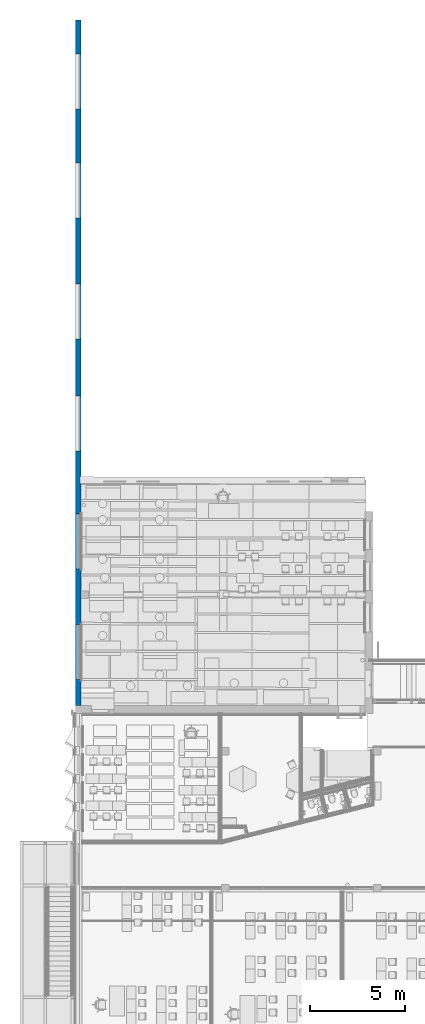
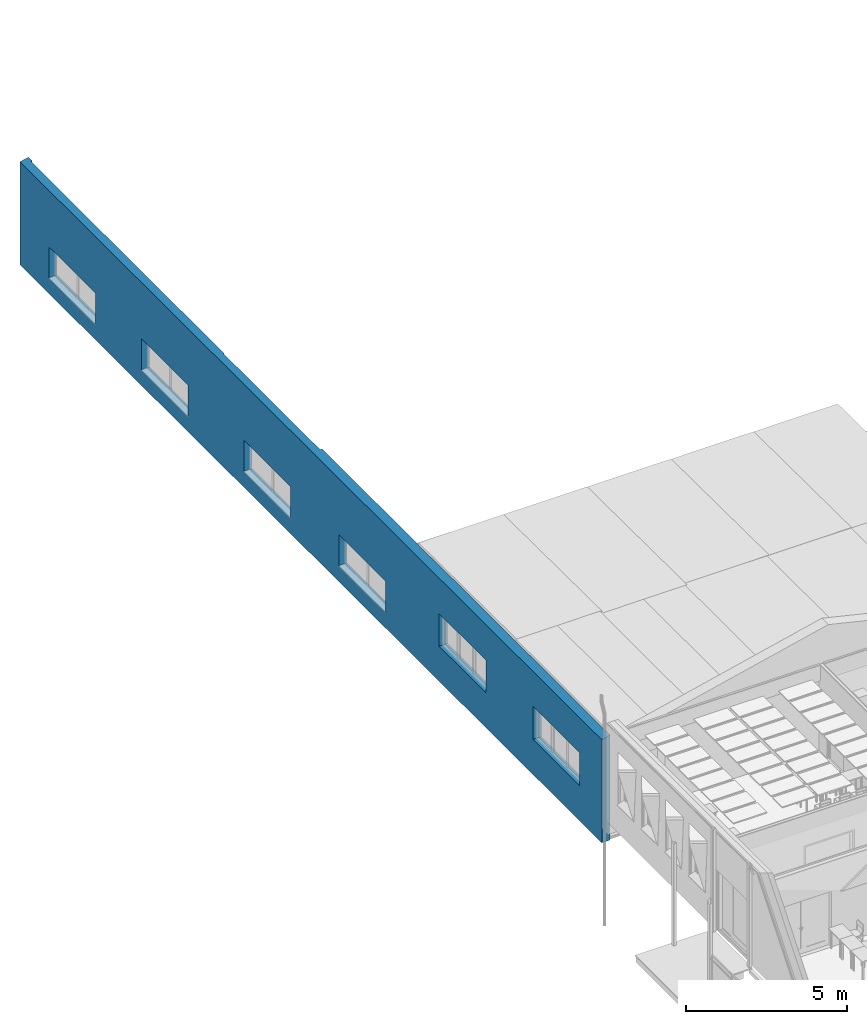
# One storey, part 43 of 153: 1 wall, 8 openings.
"""IFC2X3 building model written with IfcOpenShell, lengths in millimetres."""

from ifc_helpers import new_model, entity, si_unit, converted_unit, derived_unit, money_unit, direction, frame, origin_with_axes, place, context, subcontext, project, spatial, faceted_brep, material, type_object, element, save


model = new_model("IFC2X3")

# Units and contexts
model_context = context("Model", 3, precision=0.01, world=origin_with_axes(), true_north=direction((0.0, 1.0)))
body_context = subcontext(model_context, "Body", "Model", "MODEL_VIEW")
ifc_project = project(units=[si_unit("LENGTHUNIT", "METRE", prefix="MILLI"), si_unit("AREAUNIT", "SQUARE_METRE"), si_unit("VOLUMEUNIT", "CUBIC_METRE"), converted_unit("PLANEANGLEUNIT", "DEGREE", entity("IfcPlaneAngleMeasure", 0.0174532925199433), si_unit("PLANEANGLEUNIT", "RADIAN"), dimensions=[0, 0, 0, 0, 0, 0, 0]), money_unit("EUR"), converted_unit("TIMEUNIT", "Year", entity("IfcTimeMeasure", 31557600.0), si_unit("TIMEUNIT", "SECOND"), dimensions=[0, 0, 1, 0, 0, 0, 0]), si_unit("MASSUNIT", "GRAM", prefix="KILO"), si_unit("THERMODYNAMICTEMPERATUREUNIT", "DEGREE_CELSIUS"), si_unit("LUMINOUSINTENSITYUNIT", "LUMEN"), si_unit("ENERGYUNIT", "JOULE", prefix="MEGA"), derived_unit("THERMALCONDUCTANCEUNIT", [(si_unit("POWERUNIT", "WATT"), 1), (si_unit("LENGTHUNIT", "METRE"), -1), (si_unit("THERMODYNAMICTEMPERATUREUNIT", "KELVIN"), -1)]), derived_unit("SPECIFICHEATCAPACITYUNIT", [(si_unit("ENERGYUNIT", "JOULE"), 1), (si_unit("MASSUNIT", "GRAM", prefix="KILO"), -1), (si_unit("THERMODYNAMICTEMPERATUREUNIT", "KELVIN"), -1)]), derived_unit("MASSDENSITYUNIT", [(si_unit("MASSUNIT", "GRAM", prefix="KILO"), 1), (si_unit("VOLUMEUNIT", "CUBIC_METRE"), -1)])], contexts=[model_context])

# Site, building, storey
site_placement = place(None, frame((0.0, 0.0, 8650.0), z_axis=(0.0, 0.0, 1.0), x_axis=(1.0, 0.0, 0.0)))
site = spatial("IfcSite", under=ifc_project, at=site_placement, Name="43301:001:0844", CompositionType="ELEMENT")
building_placement = place(site_placement, origin_with_axes())
building = spatial("IfcBuilding", under=site, at=building_placement, Name="Kuressaare Ametikooli tuulikute mehaanikute õppekorpus", CompositionType="ELEMENT")
storey_placement = place(building_placement, frame((0.0, 0.0, 4100.0), z_axis=(0.0, 0.0, 1.0), x_axis=(1.0, 0.0, 0.0)))
storey = spatial("IfcBuildingStorey", under=building, at=storey_placement, Name="2.korrus", CompositionType="ELEMENT", Elevation=4100.0)

# Wall, openings
ifc_material = material(Name="GENEERILINE - KONSTRUKTRIOON")
wall_type = type_object("IfcWallType", Name="GENEERILINE - KONSTRUKTRIOON 300", PredefinedType="NOTDEFINED")
wall_placement = place(storey_placement, frame((87958.75644683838, 26183.06892395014, -1100.0), z_axis=(0.0, 0.0, 1.0), x_axis=(0.0, 1.0, 0.0)))
wall = element("IfcWall", 1, at=wall_placement, inside=storey, type_object=wall_type, material=ifc_material, Name="VS-XX", context=body_context, shape_type="Brep", body=[
    faceted_brep([(36135.27519226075, 0.0, 3910.00000002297), (36135.27519226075, -299.9999999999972, 3980.0995718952), (36135.27519226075, -299.9999999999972, 705.0000000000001), (36135.27519226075, -299.7521975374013, 705.0000000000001), (36135.27519226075, -299.7521975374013, 0.0), (36135.27519226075, 0.0, 0.0), (35918.66517290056, -299.9999999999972, 3980.0995718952), (0.0, 0.0, 3910.00000002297), (0.0, -299.9999999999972, 3980.0995718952), (9769.322232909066, -299.9999999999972, 3980.0995718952), (11873.62772160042, -287.4826970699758, 3977.174713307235), (11873.70217983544, -299.9999999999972, 3980.0995718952), (17902.08336193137, -299.9999999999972, 3980.0995718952), (17902.08336193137, -239.9999999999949, 3966.079657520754), (23906.45284457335, -239.9999999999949, 3966.079657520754), (23906.45284457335, -260.0000000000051, 3970.752962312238), (35918.66517290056, -260.0000000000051, 3970.752962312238), (0.0, -299.9999999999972, 0.0), (5578.795652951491, -299.9999999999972, 0.0), (5578.795652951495, -299.9999999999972, 410.0000000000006), (6078.795884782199, -300.0000000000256, 410.0000000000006), (6078.795884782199, -300.0000000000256, 0.0), (36135.21621371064, -299.9999999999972, 0.0), (36135.21621371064, -299.9999999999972, 705.0000000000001), (35918.66517290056, -299.9999999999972, 3659.999865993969), (30020.96183835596, -299.9999999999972, 3659.999865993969), (30020.96182321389, -299.9999999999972, 3654.999785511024), (29911.38185349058, -299.9999999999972, 3654.999785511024), (29911.38185349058, -299.9999999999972, 3659.999865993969), (23883.18431296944, -299.9999999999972, 3659.999865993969), (23883.1843129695, -299.9999999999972, 3654.999790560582), (23796.87360218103, -299.9999999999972, 3654.999790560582), (23796.87358703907, -299.9999999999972, 3659.999865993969), (17903.29176569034, -299.9999999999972, 3659.999865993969), (17903.29176569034, -299.9999999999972, 3655.82329013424), (17793.71187662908, -299.9999999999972, 3655.82329013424), (17793.71133888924, -299.9999999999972, 3833.391031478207), (17768.11920217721, -299.9999999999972, 3878.451691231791), (17736.44654341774, -299.9999999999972, 3919.467142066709), (17725.48393259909, -299.9999999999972, 3931.0), (17902.08336193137, -299.9999999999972, 3931.0), (11873.70217983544, -299.9999999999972, 3930.090151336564), (12067.31661151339, -299.9999999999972, 3930.090151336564), (12056.35403760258, -299.9999999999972, 3918.557293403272), (12024.68148547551, -299.9999999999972, 3877.541842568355), (11999.08943492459, -299.9999999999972, 3832.481182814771), (11999.08889718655, -299.9999999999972, 3654.913441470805), (11873.70217983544, -299.9999999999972, 3654.913441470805), (11873.70217983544, -299.9999999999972, 3634.999865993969), (9769.32223290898, -299.9999999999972, 3634.999865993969), (4301.376350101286, -299.9999999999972, 3899.55932829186), (4293.177474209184, -299.9999999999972, 3905.133663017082), (4346.691540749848, -299.9999999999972, 3905.133663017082), (4346.691540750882, -299.9999999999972, 3803.186184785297), (4326.691011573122, -299.9999999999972, 3803.186184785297), (4305.950979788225, -299.9999999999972, 3890.763465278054), (2837.428015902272, -299.9999999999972, 3905.133663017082), (2890.942082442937, -299.9999999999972, 3905.133663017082), (2890.942082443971, -299.9999999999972, 3803.186184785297), (2870.94155326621, -299.9999999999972, 3803.186184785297), (2850.201521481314, -299.9999999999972, 3890.763465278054), (2845.626891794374, -299.9999999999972, 3899.55932829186), (1381.134924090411, -299.9999999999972, 3905.133663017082), (1381.134924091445, -299.9999999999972, 3803.186184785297), (1361.134394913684, -299.9999999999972, 3803.186184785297), (1340.394363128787, -299.9999999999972, 3890.763465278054), (1335.819733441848, -299.9999999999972, 3899.55932829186), (1327.62085754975, -299.9999999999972, 3905.133663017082), (6856.769745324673, -299.9999999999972, 3890.763465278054), (6852.195115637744, -299.9999999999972, 3899.55932829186), (6843.996239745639, -299.9999999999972, 3905.133663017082), (6951.024372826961, -299.9999999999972, 3905.133663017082), (6942.82556358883, -299.9999999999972, 3899.559403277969), (6938.250913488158, -299.9999999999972, 3890.763660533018), (6917.509919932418, -299.9999999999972, 3803.186184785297), (6877.50977710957, -299.9999999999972, 3803.186184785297), (7834.88819334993, -299.9999999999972, 3899.55932829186), (7826.689317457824, -299.9999999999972, 3905.133663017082), (7933.717450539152, -299.9999999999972, 3905.133663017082), (7925.518641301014, -299.9999999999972, 3899.559403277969), (7920.94399120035, -299.9999999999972, 3890.763660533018), (7900.202997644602, -299.9999999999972, 3803.186184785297), (7860.202854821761, -299.9999999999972, 3803.186184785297), (7839.462823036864, -299.9999999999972, 3890.763465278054), (8807.22529570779, -299.9999999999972, 3905.133663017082), (8914.253428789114, -299.9999999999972, 3905.133663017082), (8906.054619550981, -299.9999999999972, 3899.559403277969), (8901.47996945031, -299.9999999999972, 3890.763660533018), (8880.73897589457, -299.9999999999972, 3803.186184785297), (8840.73883307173, -299.9999999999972, 3803.186184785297), (8819.998801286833, -299.9999999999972, 3890.763465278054), (8815.42417159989, -299.9999999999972, 3899.55932829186), (13911.07650633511, -299.9999999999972, 3930.166833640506), (13911.07650633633, -299.9999999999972, 3828.21935540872), (13891.07602169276, -299.9999999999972, 3828.21935540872), (13870.33603611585, -299.9999999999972, 3915.796635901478), (13865.761416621, -299.9999999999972, 3924.592498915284), (13857.56255899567, -299.9999999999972, 3930.166833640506), (12945.67901612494, -299.9999999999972, 3828.21935540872), (12925.67848693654, -299.9999999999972, 3828.21935540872), (12904.93845515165, -299.9999999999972, 3915.796635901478), (12900.36382546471, -299.9999999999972, 3924.592498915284), (12892.16494957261, -299.9999999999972, 3930.166833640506), (12945.67901612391, -299.9999999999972, 3930.166833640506), (5885.932940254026, -299.9999999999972, 3480.0), (5885.932940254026, -299.9999999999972, 3236.665496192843), (5940.933148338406, -299.9999999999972, 3199.998829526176), (5940.933148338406, -299.9999999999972, 3039.998829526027), (5840.932770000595, -299.9999999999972, 3039.998829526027), (5840.932770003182, -299.9999999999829, 3640.0), (5840.932770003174, -299.9999999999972, 3905.165256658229), (6018.794379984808, -299.9999999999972, 3905.165256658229), (5992.600799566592, -299.9999999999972, 3878.38607984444), (5969.734858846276, -299.9999999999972, 3848.714972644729), (5950.513279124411, -299.9999999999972, 3816.56291625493), (5950.512740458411, -299.9999999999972, 3640.0), (5955.933205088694, -299.9999999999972, 3640.0), (5955.933205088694, -299.9999999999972, 3540.000000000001), (7202.826094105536, -299.9999999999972, 2560.0), (10102.82609410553, -299.9999999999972, 2560.0), (10102.82609410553, -299.9999999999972, 1330.0), (7202.826094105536, -299.9999999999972, 1330.0), (16329.67826843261, -299.9999999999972, 600.0000000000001), (13429.67826843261, -299.9999999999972, 600.0000000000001), (13429.67826843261, -299.9999999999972, 1780.0), (16329.67826843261, -299.9999999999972, 1780.0), (19329.67826843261, -300.0000000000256, 1780.0), (22229.67826843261, -300.0000000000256, 1780.0), (22229.67826843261, -300.0000000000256, 600.0000000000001), (19329.67826843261, -300.0000000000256, 600.0000000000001), (28597.4437882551, -299.9999999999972, 589.9999999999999), (25697.44378825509, -299.9999999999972, 589.9999999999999), (25697.44378825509, -299.9999999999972, 1770.0), (28597.4437882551, -299.9999999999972, 1770.0), (31442.20444023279, -299.9999999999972, 1770.0), (34342.20444023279, -299.9999999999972, 1770.0), (34342.20444023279, -299.9999999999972, 589.9999999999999), (31442.20444023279, -299.9999999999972, 589.9999999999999), (4276.542440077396, -299.9999999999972, 1330.0), (1376.542440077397, -299.9999999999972, 1330.0), (1376.542440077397, -299.9999999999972, 1350.0), (1376.542440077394, -299.9999999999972, 2580.0), (4276.542440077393, -299.9999999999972, 2580.0), (4276.542440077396, -299.9999999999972, 1350.0), (36135.21621371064, -299.7521975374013, 705.0000000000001), (36135.21621371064, -299.7521975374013, 0.0), (5578.7961166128, -299.5185121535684, 0.0), (0.0, 0.0, 0.0), (10102.82609410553, 0.0, 2560.0), (7202.826094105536, 0.0, 2560.0), (7202.826094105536, 0.0, 1330.0), (10102.82609410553, 0.0, 1330.0), (13429.67826843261, 0.0, 600.0000000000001), (16329.67826843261, 0.0, 600.0000000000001), (16329.67826843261, 0.0, 1780.0), (13429.67826843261, 0.0, 1780.0), (22229.67826843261, 0.0, 1780.0), (19329.67826843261, 0.0, 1780.0), (19329.67826843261, 0.0, 600.0000000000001), (22229.67826843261, 0.0, 600.0000000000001), (25697.44378825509, 0.0, 589.9999999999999), (28597.4437882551, 0.0, 589.9999999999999), (28597.4437882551, 0.0, 1770.0), (25697.44378825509, 0.0, 1770.0), (34342.20444023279, 0.0, 1770.0), (31442.20444023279, 0.0, 1770.0), (31442.20444023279, 0.0, 589.9999999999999), (34342.20444023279, 0.0, 589.9999999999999), (4276.542440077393, 0.0, 2580.0), (1376.542440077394, 0.0, 2580.0), (1376.542440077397, 0.0, 1350.0), (1376.542440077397, 0.0, 1330.0), (4276.542440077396, 0.0, 1330.0), (4276.542440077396, 0.0, 1350.0), (11873.62772160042, -287.4826970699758, 3634.999865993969), (11873.62772160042, -287.4826970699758, 3654.913441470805), (11779.95594442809, -288.039896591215, 3654.913441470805), (11779.95540668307, -288.0398997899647, 3832.481182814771), (11754.36302407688, -288.1921341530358, 3877.541842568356), (11722.69006100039, -288.3805383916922, 3918.557293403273), (11711.72734485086, -288.445749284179, 3930.090151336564), (11873.62772160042, -287.4826970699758, 3930.090151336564), (9821.649511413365, -299.6887351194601, 3803.186184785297), (9800.909149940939, -299.8121075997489, 3890.763465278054), (9796.334447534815, -299.8393198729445, 3899.55932829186), (9788.135441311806, -299.8880910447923, 3905.133663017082), (9895.16527573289, -299.2514321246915, 3905.133663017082), (9886.966336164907, -299.3002029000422, 3899.559403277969), (9882.391613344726, -299.3274152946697, 3890.763660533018), (9861.650290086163, -299.4507934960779, 3803.186184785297), (17902.08336193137, -299.9959036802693, 3659.999865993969), (17902.08336193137, -239.9999999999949, 3659.999865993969), (23906.45284457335, -239.9999999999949, 3659.999865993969), (23906.45284457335, -260.0000000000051, 3659.999865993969), (35918.66517290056, -260.0000000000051, 3659.999865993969), (5578.7961166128, -299.5185121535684, 410.0000000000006), (23796.87359376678, -299.9759028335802, 3659.999865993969), (30020.96041783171, -299.6054635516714, 3659.999865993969), (30020.96040268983, -299.6054636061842, 3654.999785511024), (23796.87360890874, -299.9759028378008, 3654.999790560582), (17725.48597579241, -299.3972632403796, 3931.0), (17736.44846063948, -299.4344245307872, 3919.467142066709), (17768.12075544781, -299.5417891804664, 3878.451691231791), (17793.71259808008, -299.6285419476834, 3833.391031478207), (17793.71313581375, -299.6285437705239, 3655.82329013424), (11711.81380091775, -248.8090227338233, 3930.090151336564), (12067.42657794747, -249.5846892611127, 3930.090151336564), (12056.46405619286, -249.5607776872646, 3918.557293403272), (12024.79165475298, -249.4916934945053, 3877.541842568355), (11999.19972596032, -249.435872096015, 3832.481182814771), (11999.19918822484, -249.4358709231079, 3654.913441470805), (11780.04119064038, -248.9578410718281, 3654.913441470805), (4301.376673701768, -299.8789053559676, 3899.55932829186), (4293.177856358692, -299.8569957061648, 3905.133663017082), (4305.9512707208, -299.891130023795, 3890.763465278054), (4326.691154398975, -299.9465530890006, 3803.186184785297), (2837.428398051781, -299.8569957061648, 3905.133663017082), (2845.627215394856, -299.8789053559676, 3899.55932829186), (2850.201812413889, -299.891130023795, 3890.763465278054), (2870.941696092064, -299.9465530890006, 3803.186184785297), (1327.621239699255, -299.8569957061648, 3905.133663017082), (1335.82005704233, -299.8789053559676, 3899.55932829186), (1340.394654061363, -299.891130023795, 3890.763465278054), (1361.134537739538, -299.9465530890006, 3803.186184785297), (6852.216403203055, -292.0339730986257, 3899.55932829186), (6856.791000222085, -292.046197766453, 3890.763465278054), (6844.017585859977, -292.0120634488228, 3905.133663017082), (6951.044954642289, -292.2980720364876, 3905.133663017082), (6942.846203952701, -292.2761625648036, 3899.559403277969), (6938.271586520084, -292.2639378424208, 3890.763660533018), (6917.530741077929, -292.2085122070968, 3803.186184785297), (6877.53088390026, -292.1016208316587, 3803.186184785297), (7834.902463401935, -294.6599990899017, 3899.55932829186), (7826.703646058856, -294.6380894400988, 3905.133663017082), (7933.731014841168, -294.9240980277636, 3905.133663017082), (7925.532264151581, -294.9021885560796, 3899.559403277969), (7920.957646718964, -294.8899638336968, 3890.763660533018), (7900.216801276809, -294.8345381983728, 3803.186184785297), (7860.216944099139, -294.7276468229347, 3803.186184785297), (7839.477060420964, -294.6722237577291, 3890.763465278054), (8807.23262219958, -297.2583510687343, 3905.133663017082), (8914.259990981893, -297.5443596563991, 3905.133663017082), (8906.061240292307, -297.5224501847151, 3899.559403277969), (8901.48662285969, -297.5102254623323, 3890.763660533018), (8880.745777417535, -297.4547998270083, 3803.186184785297), (8840.745920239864, -297.3479084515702, 3803.186184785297), (8820.00603656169, -297.2924853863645, 3890.763465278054), (8815.43143954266, -297.2802607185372, 3899.55932829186), (13857.56270269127, -299.9123090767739, 3930.166833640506), (13865.76153830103, -299.9257441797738, 3924.592498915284), (13870.33614551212, -299.9332404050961, 3915.796635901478), (13891.07607539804, -299.9672260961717, 3828.21935540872), (12925.6786297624, -299.9465530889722, 3828.21935540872), (12904.93874608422, -299.8911300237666, 3915.796635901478), (12900.36414906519, -299.8789053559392, 3924.592498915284), (12892.16533172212, -299.8569957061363, 3930.166833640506), (5885.932599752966, -299.8762159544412, 3480.0), (5885.932599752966, -299.8762159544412, 3236.665496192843), (5940.932391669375, -299.7249243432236, 3199.998829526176), (5940.932391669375, -299.7249243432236, 3039.998829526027), (5955.932334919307, -299.6836629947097, 3640.0), (5950.511654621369, -299.6985740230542, 3640.0), (5955.932334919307, -299.6836629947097, 3540.000000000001), (5950.511318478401, -299.6052614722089, 3640.0), (5950.511857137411, -299.6052595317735, 3816.56291625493), (5969.733187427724, -299.5360178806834, 3848.714972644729), (5992.598831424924, -299.4536481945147, 3878.38607984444), (6018.792071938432, -299.3592913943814, 3905.165256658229), (11780.0406529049, -248.957839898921, 3832.481182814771), (11754.44872411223, -248.9020185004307, 3877.541842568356), (11722.77632267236, -248.8329343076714, 3918.557293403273), (9821.655766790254, -297.347908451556, 3803.186184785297), (9800.915883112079, -297.2924853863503, 3890.763465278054), (9796.34128609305, -297.280260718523, 3899.55932829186), (9788.142468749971, -297.2583510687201, 3905.133663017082), (9895.169837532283, -297.5443596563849, 3905.133663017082), (9886.971086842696, -297.5224501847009, 3899.559403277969), (9882.39646941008, -297.5102254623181, 3890.763660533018), (9861.655623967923, -297.4547998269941, 3803.186184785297)], [[[0, 1, 2, 3, 4, 5]], [[6, 1, 0, 7, 8, 9, 10, 11, 12, 13, 14, 15, 16]], [[9, 8, 17, 18, 19, 20, 21, 22, 23, 2, 1, 6, 24, 25, 26, 27, 28, 29, 30, 31, 32, 33, 34, 35, 36, 37, 38, 39, 40, 12, 11, 41, 42, 43, 44, 45, 46, 47, 48, 49], [50, 51, 52, 53, 54, 55], [56, 57, 58, 59, 60, 61], [62, 63, 64, 65, 66, 67], [68, 69, 70, 71, 72, 73, 74, 75], [76, 77, 78, 79, 80, 81, 82, 83], [84, 85, 86, 87, 88, 89, 90, 91], [92, 93, 94, 95, 96, 97], [98, 99, 100, 101, 102, 103], [104, 105, 106, 107, 108, 109, 110, 111, 112, 113, 114, 115, 116, 117], [118, 119, 120, 121], [122, 123, 124, 125], [126, 127, 128, 129], [130, 131, 132, 133], [134, 135, 136, 137], [138, 139, 140, 141, 142, 143]], [[3, 2, 23, 144]], [[4, 3, 144, 145]], [[22, 21, 146, 18, 17, 147, 5, 4, 145]], [[7, 0, 5, 147], [148, 149, 150, 151], [152, 153, 154, 155], [156, 157, 158, 159], [160, 161, 162, 163], [164, 165, 166, 167], [168, 169, 170, 171, 172, 173]], [[8, 7, 147, 17]], [[10, 9, 49, 174, 175, 176, 177, 178, 179, 180, 181], [182, 183, 184, 185, 186, 187, 188, 189]], [[11, 10, 181, 41]], [[13, 12, 40, 190, 191]], [[14, 13, 191, 192]], [[15, 14, 192, 193]], [[16, 15, 193, 194]], [[6, 16, 194, 24]], [[195, 19, 18, 146]], [[20, 19, 195]], [[195, 146, 21, 20]], [[23, 22, 145, 144]], [[32, 196, 29, 28, 197, 25, 24, 194, 193, 192, 191, 190, 33]], [[26, 25, 197, 198]], [[26, 198, 27]], [[28, 27, 198, 197]], [[196, 199, 30, 29]], [[199, 31, 30]], [[32, 31, 199, 196]], [[34, 33, 190, 40, 200, 201, 202, 203, 204]], [[35, 34, 204]], [[35, 204, 203, 36]], [[36, 203, 202, 37]], [[37, 202, 201, 38]], [[38, 201, 200, 39]], [[39, 200, 40]], [[42, 41, 181, 180, 205, 206]], [[206, 207, 43, 42]], [[207, 208, 44, 43]], [[208, 209, 45, 44]], [[209, 210, 46, 45]], [[211, 176, 175, 47, 46, 210]], [[175, 174, 48, 47]], [[48, 174, 49]], [[51, 50, 212, 213]], [[52, 51, 213]], [[53, 52, 213, 212, 214, 215]], [[54, 53, 215]], [[55, 54, 215, 214]], [[50, 55, 214, 212]], [[56, 216, 57]], [[57, 216, 217, 218, 219, 58]], [[58, 219, 59]], [[59, 219, 218, 60]], [[60, 218, 217, 61]], [[61, 217, 216, 56]], [[220, 221, 222, 223, 63, 62]], [[223, 64, 63]], [[223, 222, 65, 64]], [[222, 221, 66, 65]], [[221, 220, 67, 66]], [[220, 62, 67]], [[224, 69, 68, 225]], [[226, 70, 69, 224]], [[227, 71, 70, 226]], [[228, 72, 71, 227]], [[229, 73, 72, 228]], [[230, 74, 73, 229]], [[231, 75, 74, 230]], [[225, 68, 75, 231]], [[77, 76, 232, 233]], [[78, 77, 233, 234]], [[79, 78, 234, 235]], [[80, 79, 235, 236]], [[81, 80, 236, 237]], [[82, 81, 237, 238]], [[83, 82, 238, 239]], [[76, 83, 239, 232]], [[84, 240, 241, 85]], [[85, 241, 242, 86]], [[86, 242, 243, 87]], [[87, 243, 244, 88]], [[88, 244, 245, 89]], [[89, 245, 246, 90]], [[90, 246, 247, 91]], [[91, 247, 240, 84]], [[248, 249, 250, 251, 93, 92]], [[251, 94, 93]], [[95, 94, 251, 250]], [[96, 95, 250, 249]], [[97, 96, 249, 248]], [[248, 92, 97]], [[99, 98, 252]], [[99, 252, 253, 100]], [[100, 253, 254, 101]], [[101, 254, 255, 102]], [[103, 102, 255]], [[254, 253, 252, 98, 103, 255]], [[256, 257, 105, 104]], [[257, 258, 106, 105]], [[258, 259, 107, 106]], [[259, 108, 107]], [[260, 261, 109, 108, 259, 258, 257, 256, 262]], [[263, 264, 265, 266, 267, 110, 109]], [[267, 111, 110]], [[266, 112, 111, 267]], [[265, 113, 112, 266]], [[264, 114, 113, 265]], [[263, 261, 115, 114, 264]], [[261, 260, 116, 115]], [[260, 262, 117, 116]], [[262, 256, 104, 117]], [[119, 118, 149, 148]], [[120, 119, 148, 151]], [[120, 151, 150, 121]], [[121, 150, 149, 118]], [[152, 123, 122, 153]], [[155, 124, 123, 152]], [[155, 154, 125, 124]], [[154, 153, 122, 125]], [[127, 126, 157, 156]], [[128, 127, 156, 159]], [[128, 159, 158, 129]], [[129, 158, 157, 126]], [[160, 131, 130, 161]], [[163, 132, 131, 160]], [[163, 162, 133, 132]], [[162, 161, 130, 133]], [[135, 134, 165, 164]], [[136, 135, 164, 167]], [[136, 167, 166, 137]], [[137, 166, 165, 134]], [[171, 139, 138, 172]], [[170, 140, 139, 171]], [[141, 140, 170, 169]], [[169, 168, 142, 141]], [[173, 143, 142, 168]], [[172, 138, 143, 173]], [[211, 268, 177, 176]], [[268, 269, 178, 177]], [[269, 270, 179, 178]], [[270, 205, 180, 179]], [[271, 272, 183, 182]], [[272, 273, 184, 183]], [[273, 274, 185, 184]], [[274, 275, 186, 185]], [[275, 276, 187, 186]], [[276, 277, 188, 187]], [[277, 278, 189, 188]], [[278, 271, 182, 189]], [[268, 211, 210, 209, 208, 207, 206, 205, 270, 269]], [[225, 231, 230, 229, 228, 227, 226, 224]], [[238, 237, 236, 235, 234, 233, 232, 239]], [[244, 243, 242, 241, 240, 247, 246, 245]], [[263, 109, 261]], [[277, 276, 275, 274, 273, 272, 271, 278]]]),
])
opening_1_placement = place(wall_placement, frame((2826.542440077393, 0.0, 1350.0), z_axis=(0.0, 0.0, 1.0), x_axis=(1.0, 0.0, 0.0)))
element("IfcOpeningElement", 2, at=opening_1_placement, cuts=wall, Name="ava", context=body_context, shape_type="Brep", body=[
    faceted_brep([(-1449.999999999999, -250.0, 1230.0), (1449.999999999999, -250.0, 1230.0), (1449.999999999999, 1.000000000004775, 1230.0), (-1449.999999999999, 1.000000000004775, 1230.0), (-1449.999999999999, -301.0000000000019, 1230.0), (1449.999999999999, -301.0000000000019, 1230.0), (1449.999999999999, -250.0, 0.0), (1449.999999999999, 1.000000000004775, 0.0), (-1449.999999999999, 1.000000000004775, 0.0), (-1449.999999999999, -250.0, 0.0), (-1449.999999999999, -301.0000000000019, 0.0), (1449.999999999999, -301.0000000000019, 0.0)], [[[0, 1, 2, 3]], [[1, 0, 4, 5]], [[1, 6, 7, 2]], [[7, 8, 3, 2]], [[9, 0, 3, 8]], [[0, 9, 10, 4]], [[4, 10, 11, 5]], [[6, 1, 5, 11]], [[6, 9, 8, 7]], [[9, 6, 11, 10]]]),
])
opening_2_placement = place(wall_placement, frame((8652.826094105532, 0.0, 1330.0), z_axis=(0.0, 0.0, 1.0), x_axis=(1.0, 0.0, 0.0)))
element("IfcOpeningElement", 3, at=opening_2_placement, cuts=wall, Name="ava", context=body_context, shape_type="Brep", body=[
    faceted_brep([(-1449.999999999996, -250.0, 1230.0), (1449.999999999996, -250.0, 1230.0), (1449.999999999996, 1.000000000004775, 1230.0), (-1449.999999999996, 1.000000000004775, 1230.0), (-1449.999999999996, -301.0000000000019, 1230.0), (1449.999999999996, -301.0000000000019, 1230.0), (1449.999999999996, -250.0, 0.0), (1449.999999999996, 1.000000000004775, 0.0), (-1449.999999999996, 1.000000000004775, 0.0), (-1449.999999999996, -250.0, 0.0), (-1449.999999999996, -301.0000000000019, 0.0), (1449.999999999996, -301.0000000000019, 0.0)], [[[0, 1, 2, 3]], [[1, 0, 4, 5]], [[1, 6, 7, 2]], [[7, 8, 3, 2]], [[9, 0, 3, 8]], [[0, 9, 10, 4]], [[4, 10, 11, 5]], [[6, 1, 5, 11]], [[6, 9, 8, 7]], [[9, 6, 11, 10]]]),
])
opening_3_placement = place(wall_placement, frame((14879.67826843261, 0.0, 600.0000000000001), z_axis=(0.0, 0.0, 1.0), x_axis=(1.0, 0.0, 0.0)))
element("IfcOpeningElement", 4, at=opening_3_placement, cuts=wall, Name="VA-XX", context=body_context, shape_type="Brep", body=[
    faceted_brep([(-1449.999999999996, -200.0000000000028, 0.0), (-1449.999999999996, -200.0000000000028, 1180.0), (-1449.999999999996, 1.000000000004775, 1180.0), (-1449.999999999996, 1.000000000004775, 0.0), (-1449.999999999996, -301.0000000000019, 0.0), (-1449.999999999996, -301.0000000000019, 1180.0), (1449.999999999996, -200.0000000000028, 1180.0), (1449.999999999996, 1.000000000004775, 1180.0), (1449.999999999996, -301.0000000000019, 1180.0), (1449.999999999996, 1.000000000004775, 0.0), (1449.999999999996, -200.0000000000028, 0.0), (1449.999999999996, -301.0000000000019, 0.0)], [[[0, 1, 2, 3]], [[1, 0, 4, 5]], [[6, 7, 2, 1, 5, 8]], [[7, 9, 3, 2]], [[0, 3, 9, 10, 11, 4]], [[5, 4, 11, 8]], [[6, 10, 9, 7]], [[10, 6, 8, 11]]]),
])
opening_4_placement = place(wall_placement, frame((27147.44378825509, 0.0, 589.9999999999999), z_axis=(0.0, 0.0, 1.0), x_axis=(1.0, 0.0, 0.0)))
element("IfcOpeningElement", 5, at=opening_4_placement, cuts=wall, Name="VA-XX", context=body_context, shape_type="Brep", body=[
    faceted_brep([(-1450.000000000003, -200.0000000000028, 0.0), (-1450.000000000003, -200.0000000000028, 1180.0), (-1450.000000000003, 1.000000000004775, 1180.0), (-1450.000000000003, 1.000000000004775, 0.0), (-1450.000000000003, -301.0000000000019, 0.0), (-1450.000000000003, -301.0000000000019, 1180.0), (1450.000000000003, -200.0000000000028, 1180.0), (1450.000000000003, 1.000000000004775, 1180.0), (1450.000000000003, -301.0000000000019, 1180.0), (1450.000000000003, 1.000000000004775, 0.0), (1450.000000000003, -200.0000000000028, 0.0), (1450.000000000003, -301.0000000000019, 0.0)], [[[0, 1, 2, 3]], [[1, 0, 4, 5]], [[6, 7, 2, 1, 5, 8]], [[7, 9, 3, 2]], [[0, 3, 9, 10, 11, 4]], [[5, 4, 11, 8]], [[6, 10, 9, 7]], [[10, 6, 8, 11]]]),
])
opening_5_placement = place(wall_placement, frame((32892.20444023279, 0.0, 589.9999999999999), z_axis=(0.0, 0.0, 1.0), x_axis=(1.0, 0.0, 0.0)))
element("IfcOpeningElement", 6, at=opening_5_placement, cuts=wall, Name="VA-XX", context=body_context, shape_type="Brep", body=[
    faceted_brep([(-1450.000000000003, -200.0000000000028, 0.0), (-1450.000000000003, -200.0000000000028, 1180.0), (-1450.000000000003, 1.000000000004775, 1180.0), (-1450.000000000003, 1.000000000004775, 0.0), (-1450.000000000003, -301.0000000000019, 0.0), (-1450.000000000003, -301.0000000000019, 1180.0), (1450.000000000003, -200.0000000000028, 1180.0), (1450.000000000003, 1.000000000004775, 1180.0), (1450.000000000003, -301.0000000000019, 1180.0), (1450.000000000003, 1.000000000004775, 0.0), (1450.000000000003, -200.0000000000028, 0.0), (1450.000000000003, -301.0000000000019, 0.0)], [[[0, 1, 2, 3]], [[1, 0, 4, 5]], [[6, 7, 2, 1, 5, 8]], [[7, 9, 3, 2]], [[0, 3, 9, 10, 11, 4]], [[5, 4, 11, 8]], [[6, 10, 9, 7]], [[10, 6, 8, 11]]]),
])
opening_6_placement = place(wall_placement, frame((8652.826094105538, 0.0, 1330.0), z_axis=(0.0, 0.0, 1.0), x_axis=(1.0, 0.0, 0.0)))
element("IfcOpeningElement", 7, at=opening_6_placement, cuts=wall, Name="AL-4", context=body_context, shape_type="Brep", body=[
    faceted_brep([(-1450.000000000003, -99.99999999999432, 0.0), (-1450.000000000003, -99.99999999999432, 1230.0), (-1450.000000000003, 1.000000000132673, 1230.0), (-1450.000000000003, 1.000000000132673, 0.0), (-1450.000000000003, -301.0000000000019, 0.0), (-1450.000000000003, -301.0000000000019, 1230.0), (1450.000000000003, -99.99999999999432, 1230.0), (1450.000000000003, 1.000000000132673, 1230.0), (1450.000000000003, -301.0000000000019, 1230.0), (1450.000000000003, 1.000000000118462, 0.0), (1450.000000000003, -99.99999999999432, 0.0), (1450.000000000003, -301.0000000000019, 0.0)], [[[0, 1, 2, 3]], [[1, 0, 4, 5]], [[6, 7, 2, 1, 5, 8]], [[7, 9, 3, 2]], [[0, 3, 9, 10, 11, 4]], [[5, 4, 11, 8]], [[6, 10, 9, 7]], [[10, 6, 8, 11]]]),
])
opening_7_placement = place(wall_placement, frame((20779.67826843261, 0.0, 600.0000000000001), z_axis=(0.0, 0.0, 1.0), x_axis=(1.0, 0.0, 0.0)))
element("IfcOpeningElement", 8, at=opening_7_placement, cuts=wall, Name="VA-XX", context=body_context, shape_type="Brep", body=[
    faceted_brep([(-1450.000000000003, -200.0000000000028, 0.0), (-1450.000000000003, -200.0000000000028, 1180.0), (-1450.000000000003, 1.000000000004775, 1180.0), (-1450.000000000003, 1.000000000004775, 0.0), (-1450.000000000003, -301.0000000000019, 0.0), (-1450.000000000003, -301.0000000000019, 1180.0), (1450.000000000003, -200.0000000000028, 1180.0), (1450.000000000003, 1.000000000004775, 1180.0), (1450.000000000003, -301.0000000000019, 1180.0), (1450.000000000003, 1.000000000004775, 0.0), (1450.000000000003, -200.0000000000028, 0.0), (1450.000000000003, -301.0000000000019, 0.0)], [[[0, 1, 2, 3]], [[1, 0, 4, 5]], [[6, 7, 2, 1, 5, 8]], [[7, 9, 3, 2]], [[0, 3, 9, 10, 11, 4]], [[5, 4, 11, 8]], [[6, 10, 9, 7]], [[10, 6, 8, 11]]]),
])
opening_8_placement = place(wall_placement, frame((2826.542440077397, 0.0, 1330.0), z_axis=(0.0, 0.0, 1.0), x_axis=(1.0, 0.0, 0.0)))
element("IfcOpeningElement", 9, at=opening_8_placement, cuts=wall, Name="AL-4", context=body_context, shape_type="Brep", body=[
    faceted_brep([(-1449.999999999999, -99.99999999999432, 0.0), (-1449.999999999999, -99.99999999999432, 1230.0), (-1449.999999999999, 1.000000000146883, 1230.0), (-1449.999999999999, 1.000000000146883, 0.0), (-1449.999999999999, -301.0000000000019, 0.0), (-1449.999999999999, -301.0000000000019, 1230.0), (1449.999999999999, -99.99999999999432, 1230.0), (1449.999999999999, 1.000000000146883, 1230.0), (1449.999999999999, -301.0000000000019, 1230.0), (1449.999999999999, 1.000000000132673, 0.0), (1449.999999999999, -99.99999999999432, 0.0), (1449.999999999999, -301.0000000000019, 0.0)], [[[0, 1, 2, 3]], [[1, 0, 4, 5]], [[6, 7, 2, 1, 5, 8]], [[7, 9, 3, 2]], [[0, 3, 9, 10, 11, 4]], [[5, 4, 11, 8]], [[6, 10, 9, 7]], [[10, 6, 8, 11]]]),
])

save(model, "model.ifc")
